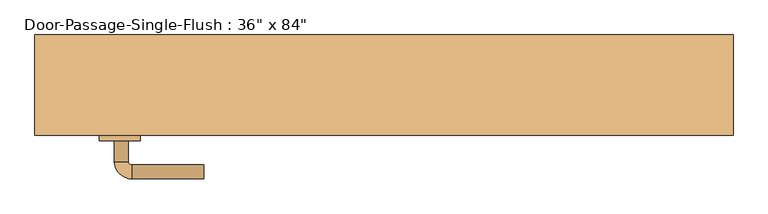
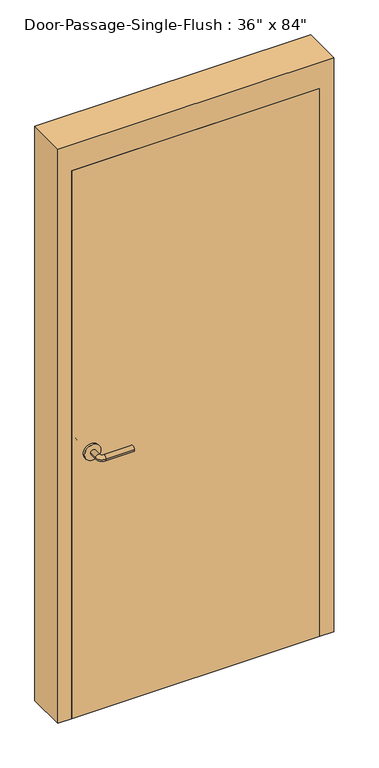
"""IFC4 building model written with IfcOpenShell, lengths in millimetres: door geometry."""

import ifcopenshell
import ifcopenshell.guid

model = None  # the IFC model being written
_history = None  # IfcOwnerHistory: only IFC2X3 demands one
_inside = {}  # id of a spatial element -> (the spatial element, [elements in it])
_under = {}  # id of a project, library or spatial element -> (it, [spatial elements below it])
_declared = {}  # id of a project -> (the project, [libraries it declares])
_typed = {}  # id of a type object -> (the type object, [elements of that type])
_made_of = {}  # id of a material, layer set ... -> (it, [elements and type objects made of it])


def new_model(schema):
    """Start an empty IFC model of exactly this schema.

    Asked for "IFC4X3", IfcOpenShell would pick the latest addendum, in which some entities
    have other attributes; the version numbers below select the first issue.
    IFC2X3 requires an IfcOwnerHistory on every rooted entity: one is made here for all.
    """
    global model, _history
    if schema == "IFC4X3":
        model = ifcopenshell.file(schema_version=(4, 3, 0, 0))
    else:
        model = ifcopenshell.file(schema=schema)
    _inside.clear()
    _under.clear()
    _declared.clear()
    _typed.clear()
    _made_of.clear()
    _history = None
    if model.schema == "IFC2X3":
        org = make("IfcOrganization", Name="unknown")
        user = make(
            "IfcPersonAndOrganization",
            ThePerson=make("IfcPerson", FamilyName="unknown"),
            TheOrganization=org,
        )
        app = make(
            "IfcApplication",
            ApplicationDeveloper=org,
            Version="unknown",
            ApplicationFullName="unknown",
            ApplicationIdentifier="unknown",
        )
        _history = make(
            "IfcOwnerHistory",
            OwningUser=user,
            OwningApplication=app,
            ChangeAction="ADDED",
            CreationDate=0,
        )
    return model


def make(cls, **values):
    """One entity of the class cls with the attributes given. An attribute that is None is left unset."""
    return model.create_entity(
        cls, **{name: value for name, value in values.items() if value is not None}
    )


def rooted(cls, **values):
    """An entity with a GlobalId (a new one), such as an element, a storey or a relation."""
    return make(cls, GlobalId=ifcopenshell.guid.new(), OwnerHistory=_history, **values)


def si_unit(unit_type, name, prefix=None):
    """IfcSIUnit, for example si_unit("LENGTHUNIT", "METRE", prefix="MILLI")."""
    return make("IfcSIUnit", UnitType=unit_type, Prefix=prefix, Name=name)


def assignment(units):
    """IfcUnitAssignment: the units of a project."""
    return None if units is None else make("IfcUnitAssignment", Units=units)


def point(xyz):
    """IfcCartesianPoint."""
    return None if xyz is None else make("IfcCartesianPoint", Coordinates=xyz)


def direction(xyz):
    """IfcDirection."""
    return None if xyz is None else make("IfcDirection", DirectionRatios=xyz)


def frame(location, z_axis=None, x_axis=None):
    """IfcAxis2Placement3D, a coordinate frame: its origin and axes. An axis left out is left unset."""
    return make(
        "IfcAxis2Placement3D",
        Location=point(location),
        Axis=direction(z_axis),
        RefDirection=direction(x_axis),
    )


def frame_2d(location, x_axis=None):
    """IfcAxis2Placement2D, a coordinate frame in the plane: its origin and x axis."""
    return make(
        "IfcAxis2Placement2D", Location=point(location), RefDirection=direction(x_axis)
    )


def origin():
    """The frame at (0, 0, 0) with its axes left unset."""
    return frame((0.0, 0.0, 0.0))


def origin_with_axes():
    """The frame at (0, 0, 0) with the z axis (0, 0, 1) and the x axis (1, 0, 0) written out."""
    return frame((0.0, 0.0, 0.0), z_axis=(0.0, 0.0, 1.0), x_axis=(1.0, 0.0, 0.0))


def place(relative_to, where):
    """IfcLocalPlacement: puts the frame where relative to a parent placement (None: the world)."""
    return make(
        "IfcLocalPlacement", PlacementRelTo=relative_to, RelativePlacement=where
    )


def context(
    kind, dimensions, precision=None, world=None, true_north=None, identifier=None
):
    """IfcGeometricRepresentationContext, for example the 3D "Model" context."""
    return make(
        "IfcGeometricRepresentationContext",
        ContextIdentifier=identifier,
        ContextType=kind,
        CoordinateSpaceDimension=dimensions,
        Precision=precision,
        WorldCoordinateSystem=world,
        TrueNorth=true_north,
    )


def project(units=None, contexts=None):
    """IfcProject with its units and contexts."""
    return rooted(
        "IfcProject",
        Name="project",
        RepresentationContexts=contexts,
        UnitsInContext=assignment(units),
    )


def spatial(cls, under=None, at=None, **own):
    """A site, building, storey or space (cls), placed at a placement, below another one or the project."""
    s = rooted(cls, ObjectPlacement=at, **own)
    if under is not None:
        _under.setdefault(under.id(), (under, []))[1].append(s)
    return s


def polyline(points):
    """IfcPolyline through the points."""
    return make("IfcPolyline", Points=[point(p) for p in points])


def circle_curve(where, radius):
    """IfcCircle in the frame where."""
    return make("IfcCircle", Position=where, Radius=radius)


def ellipse_curve(where, semi_axis1, semi_axis2):
    """IfcEllipse in the frame where."""
    return make(
        "IfcEllipse", Position=where, SemiAxis1=semi_axis1, SemiAxis2=semi_axis2
    )


def trimmed(basis, trim1, trim2, sense, master):
    """IfcTrimmedCurve: the piece of a basis curve between two trims."""
    return make(
        "IfcTrimmedCurve",
        BasisCurve=basis,
        Trim1=trim1,
        Trim2=trim2,
        SenseAgreement=sense,
        MasterRepresentation=master,
    )


def segment(curve, same_sense, transition):
    """IfcCompositeCurveSegment."""
    return make(
        "IfcCompositeCurveSegment",
        Transition=transition,
        SameSense=same_sense,
        ParentCurve=curve,
    )


def composite_curve(segments, self_intersect=None):
    """IfcCompositeCurve: segments joined end to end."""
    return make("IfcCompositeCurve", Segments=segments, SelfIntersect=self_intersect)


def outline(outer, holes=None, kind="AREA"):
    """IfcArbitraryClosedProfileDef: a profile drawn as a closed curve; with holes, ...WithVoids."""
    if holes is None:
        return make("IfcArbitraryClosedProfileDef", ProfileType=kind, OuterCurve=outer)
    return make(
        "IfcArbitraryProfileDefWithVoids",
        ProfileType=kind,
        OuterCurve=outer,
        InnerCurves=holes,
    )


def extrude(swept, where, along, depth):
    """IfcExtrudedAreaSolid: the profile swept, set in the frame where, extruded along a direction by depth."""
    return make(
        "IfcExtrudedAreaSolid",
        SweptArea=swept,
        Position=where,
        ExtrudedDirection=direction(along),
        Depth=depth,
    )


def faces_of(points, faces, orient=None, outer=None):
    """IfcFace entities. A face is a list of loops; a loop is a list of indices into points, from 0.

    orient and outer hold one flag for each loop. By default every Orientation is true, the
    first loop of a face is its IfcFaceOuterBound and the others are IfcFaceBound.
    """
    made = []
    for i, loops in enumerate(faces):
        bounds = []
        for j, loop in enumerate(loops):
            is_outer = j == 0 if outer is None else outer[i][j]
            bounds.append(
                make(
                    "IfcFaceOuterBound" if is_outer else "IfcFaceBound",
                    Bound=make("IfcPolyLoop", Polygon=[points[k] for k in loop]),
                    Orientation=True if orient is None else orient[i][j],
                )
            )
        made.append(make("IfcFace", Bounds=bounds))
    return made


def faceted_brep(points, faces, orient=None, outer=None, voids=None):
    """IfcFacetedBrep: a solid bounded by flat faces; with voids (closed shells), ...WithVoids."""
    shared = [point(p) for p in points]
    hull = make("IfcClosedShell", CfsFaces=faces_of(shared, faces, orient, outer))
    if voids is None:
        return make("IfcFacetedBrep", Outer=hull)
    return make(
        "IfcFacetedBrepWithVoids",
        Outer=hull,
        Voids=[
            make(cls, CfsFaces=faces_of(shared, fs, o, b)) for cls, fs, o, b in voids
        ],
    )


def shape(context_of_items, identifier, shape_type, items):
    """IfcShapeRepresentation: the items that make up one representation, for example the "Body"."""
    return make(
        "IfcShapeRepresentation",
        ContextOfItems=context_of_items,
        RepresentationIdentifier=identifier,
        RepresentationType=shape_type,
        Items=items,
    )


def source(mapping_origin, context_of_items, identifier, shape_type, items):
    """IfcRepresentationMap: a shape defined once, which mapped items show again and again."""
    return make(
        "IfcRepresentationMap",
        MappingOrigin=mapping_origin,
        MappedRepresentation=shape(context_of_items, identifier, shape_type, items),
    )


def transform(
    local_origin,
    x_axis=None,
    y_axis=None,
    z_axis=None,
    scale=None,
    scale2=None,
    scale3=None,
    uniform=True,
):
    """IfcCartesianTransformationOperator3D, or its non-uniform kind. x_axis, y_axis, z_axis: its Axis1, 2, 3."""
    if uniform:
        return make(
            "IfcCartesianTransformationOperator3D",
            Axis1=direction(x_axis),
            Axis2=direction(y_axis),
            LocalOrigin=point(local_origin),
            Scale=scale,
            Axis3=direction(z_axis),
        )
    return make(
        "IfcCartesianTransformationOperator3DnonUniform",
        Axis1=direction(x_axis),
        Axis2=direction(y_axis),
        LocalOrigin=point(local_origin),
        Scale=scale,
        Axis3=direction(z_axis),
        Scale2=scale2,
        Scale3=scale3,
    )


def mapped(mapping_source, mapping_target):
    """IfcMappedItem: shows the shape of a source again, moved by a transform."""
    return make(
        "IfcMappedItem", MappingSource=mapping_source, MappingTarget=mapping_target
    )


def made_of(thing, what):
    """Note that an element or type object is made of a material, layer set ...; save() writes the relation."""
    if what is not None:
        _made_of.setdefault(what.id(), (what, []))[1].append(thing)
    return thing


def element(
    cls,
    number,
    at=None,
    inside=None,
    cuts=None,
    type_object=None,
    material=None,
    context=None,
    identifier="Body",
    shape_type=None,
    held_by="IfcProductDefinitionShape",
    body=None,
    shapes=None,
    **own,
):
    """One element of the class cls, such as IfcWall. Its Tag is "e" and its number.

    at: its placement. inside: the storey or other place that contains it. cuts: it is an
    opening in that element (IfcRelVoidsElement). A single representation is given by context,
    identifier, shape_type and body (its items); several are given by shapes. held_by: the class
    of the entity that holds the representations. save() writes the other relations.
    """
    e = rooted(cls, Tag="e%d" % number, ObjectPlacement=at, **own)
    if body is not None:
        shapes = [shape(context, identifier, shape_type, body)]
    if shapes is not None:
        e.Representation = make(held_by, Representations=shapes)
    if inside is not None:
        _inside.setdefault(inside.id(), (inside, []))[1].append(e)
    if cuts is not None:
        rooted(
            "IfcRelVoidsElement", RelatingBuildingElement=cuts, RelatedOpeningElement=e
        )
    if type_object is not None:
        _typed.setdefault(type_object.id(), (type_object, []))[1].append(e)
    return made_of(e, material)


def aggregate(whole, parts):
    """IfcRelAggregates: a whole, such as a stair, and the parts it consists of."""
    return rooted("IfcRelAggregates", RelatingObject=whole, RelatedObjects=parts)


def save(model, path):
    """Write the relations noted so far, then the file.

    IfcRelAggregates (storeys below a building ...), IfcRelContainedInSpatialStructure (elements
    in a storey), IfcRelDefinesByType, IfcRelAssociatesMaterial and IfcRelDeclares: one each for
    every whole, place, type object, material and project.
    """
    for whole, parts in _under.values():
        aggregate(whole, parts)
    for where, things in _inside.values():
        rooted(
            "IfcRelContainedInSpatialStructure",
            RelatedElements=things,
            RelatingStructure=where,
        )
    for kind, things in _typed.values():
        rooted("IfcRelDefinesByType", RelatedObjects=things, RelatingType=kind)
    for what, things in _made_of.values():
        rooted("IfcRelAssociatesMaterial", RelatedObjects=things, RelatingMaterial=what)
    for by, libraries in _declared.values():
        rooted("IfcRelDeclares", RelatingContext=by, RelatedDefinitions=libraries)
    model.write(path)


def plane_surface(at):
    """IfcPlane: the flat surface through the origin of the frame at, square to its z axis."""
    return make("IfcPlane", Position=at)


def cylinder_surface(at, radius):
    """IfcCylindricalSurface: all points at the distance radius from the z axis of the frame at."""
    return make("IfcCylindricalSurface", Position=at, Radius=radius)


def revolved_surface(curve, axis_point, axis_direction):
    """IfcSurfaceOfRevolution: the curve turned about the line through axis_point along axis_direction."""
    return make(
        "IfcSurfaceOfRevolution",
        SweptCurve=make("IfcArbitraryOpenProfileDef", ProfileType="CURVE", Curve=curve),
        AxisPosition=make("IfcAxis1Placement", Location=point(axis_point), Axis=direction(axis_direction)),
    )


def advanced_brep(points, edges, surfaces, faces):
    """IfcAdvancedBrep: a solid bounded by faces that lie on surfaces and meet in shared edges.

    An edge is (start, end): straight between two places in points (the first is 0);
    or (start, end, curve); or (start, end, curve, False) where it runs against its curve.
    A face is (place in surfaces, loops), or (place, loops, False) where it looks against
    its surface's normal. A loop lists edges by number (the first is 1), with a minus sign
    where the edge is run from its end to its start. The first loop is the outer one.
    """
    corners = [point(p) for p in points]
    vertices = [make("IfcVertexPoint", VertexGeometry=c) for c in corners]
    made = []
    for start, end, *more in edges:
        made.append(
            make(
                "IfcEdgeCurve",
                EdgeStart=vertices[start],
                EdgeEnd=vertices[end],
                EdgeGeometry=more[0] if more else make("IfcPolyline", Points=[corners[start], corners[end]]),
                SameSense=more[1] if len(more) > 1 else True,
            )
        )
    hull = []
    for where, loops, *sense in faces:
        bounds = []
        for j, loop in enumerate(loops):
            ring = [make("IfcOrientedEdge", EdgeElement=made[abs(k) - 1], Orientation=k > 0) for k in loop]
            bounds.append(
                make(
                    "IfcFaceOuterBound" if j == 0 else "IfcFaceBound",
                    Bound=make("IfcEdgeLoop", EdgeList=ring),
                    Orientation=True,
                )
            )
        hull.append(make("IfcAdvancedFace", Bounds=bounds, FaceSurface=surfaces[where], SameSense=sense[0] if sense else True))
    return make("IfcAdvancedBrep", Outer=make("IfcClosedShell", CfsFaces=hull))


def door_fea31935(model_context):
    return source(origin(), model_context, "Body", "SolidModel", [
        advanced_brep(
        [(-392.190625, -180.9125, 1016.0), (-372.190625, -180.9125, 1016.0), (-392.190625, -150.9125, 1016.0), (-372.190625, -150.9125, 1016.0), (-367.190625, -145.9125, 1016.0), (-367.190625, -125.9125, 1016.0), (-262.190625, -125.9125, 1016.0), (-262.190625, -145.9125, 1016.0)],
        [
            (0, 1, circle_curve(frame((-382.190625, -180.9125, 1016.0), z_axis=(0.0, -1.0, 0.0), x_axis=(1.0, 0.0, 0.0)), 10.0)),
            (1, 0, circle_curve(frame((-382.190625, -180.9125, 1016.0), z_axis=(0.0, -1.0, 0.0), x_axis=(1.0, 0.0, 0.0)), 10.0)),
            (0, 2),
            (2, 3, circle_curve(frame((-382.190625, -150.9125, 1016.0), z_axis=(0.0, -1.0, 0.0), x_axis=(1.0, 0.0, 0.0)), 10.0)),
            (3, 1),
            (3, 2, circle_curve(frame((-382.190625, -150.9125, 1016.0), z_axis=(0.0, -1.0, 0.0), x_axis=(1.0, 0.0, 0.0)), 10.0)),
            (4, 3, circle_curve(frame((-367.190625, -150.9125, 1016.0), z_axis=(0.0, 0.0, 1.0), x_axis=(-1.0, 0.0, 0.0)), 5.0)),
            (2, 5, circle_curve(frame((-367.190625, -150.9125, 1016.0), z_axis=(0.0, 0.0, -1.0), x_axis=(-1.0, 0.0, 0.0)), 25.0)),
            (5, 4, circle_curve(frame((-367.190625, -135.9125, 1016.0), z_axis=(-1.0, 0.0, 0.0), x_axis=(0.0, -1.0, 0.0)), 10.0)),
            (4, 5, circle_curve(frame((-367.190625, -135.9125, 1016.0), z_axis=(-1.0, 0.0, 0.0), x_axis=(0.0, -1.0, 0.0)), 10.0)),
            (6, 7, circle_curve(frame((-262.190625, -135.9125, 1016.0), z_axis=(1.0, 0.0, 0.0), x_axis=(0.0, -1.0, 0.0)), 10.0)),
            (7, 6, circle_curve(frame((-262.190625, -135.9125, 1016.0), z_axis=(1.0, 0.0, 0.0), x_axis=(0.0, -1.0, 0.0)), 10.0)),
            (5, 6),
            (7, 4),
        ],
        [
            plane_surface(frame((-382.190625, -180.9125, 1016.0), z_axis=(0.0, -1.0, 0.0), x_axis=(0.0, 0.0, 1.0))),
            cylinder_surface(frame((-382.190625, -180.9125, 1016.0), z_axis=(0.0, -1.0, 0.0), x_axis=(1.0, 0.0, 0.0)), 10.0),
            revolved_surface(trimmed(ellipse_curve(frame((-382.190625, -150.9125, 1016.0), z_axis=(0.0, -1.0, 0.0), x_axis=(1.0, 0.0, 0.0)), 10.0, 10.0), [point((-392.190625, -150.9125, 1016.0))], [point((-372.190625, -150.9125, 1016.0))], True, "CARTESIAN"), (-367.190625, -150.9125, 1016.0), (0.0, 0.0, -1.0)),
            revolved_surface(trimmed(ellipse_curve(frame((-382.190625, -150.9125, 1016.0), z_axis=(0.0, -1.0, 0.0), x_axis=(1.0, 0.0, 0.0)), 10.0, 10.0), [point((-372.190625, -150.9125, 1016.0))], [point((-392.190625, -150.9125, 1016.0))], True, "CARTESIAN"), (-367.190625, -150.9125, 1016.0), (0.0, 0.0, -1.0)),
            plane_surface(frame((-262.190625, -135.9125, 1016.0), z_axis=(1.0, 0.0, 0.0), x_axis=(0.0, 0.0, 1.0))),
            cylinder_surface(frame((-367.190625, -135.9125, 1016.0), z_axis=(-1.0, 0.0, 0.0), x_axis=(0.0, -1.0, 0.0)), 10.0),
        ],
        [
            (0, [[1, 2]]),
            (1, [[-1, 3, 4, 5]]),
            (1, [[-2, -5, 6, -3]]),
            (2, [[7, -4, 8, 9]]),
            (3, [[-8, -6, -7, 10]]),
            (4, [[11, 12]]),
            (5, [[-9, 13, -12, 14]]),
            (5, [[-10, -14, -11, -13]]),
        ],
    ),
        extrude(outline(composite_curve([segment(trimmed(circle_curve(frame_2d((1016.0, -384.690625)), 30.0), [point((1016.0, -414.690625))], [point((1016.0, -354.690625))], False, "CARTESIAN"), True, "CONTINUOUS"), segment(trimmed(circle_curve(frame_2d((1016.0, -384.690625)), 30.0), [point((1016.0, -354.690625))], [point((1016.0, -414.690625))], False, "CARTESIAN"), True, "CONTINUOUS")], self_intersect=False)), frame((0.0, -188.9125, 0.0), z_axis=(0.0, 1.0, 0.0), x_axis=(0.0, 0.0, 1.0)), (0.0, 0.0, 1.0), 8.0),
        advanced_brep(
        [(-392.190625, -241.3625, 1016.0), (-372.190625, -241.3625, 1016.0), (-372.190625, -271.3625, 1016.0), (-392.190625, -271.3625, 1016.0), (-367.190625, -276.3625, 1016.0), (-367.190625, -296.3625, 1016.0), (-262.190625, -296.3625, 1016.0), (-262.190625, -276.3625, 1016.0)],
        [
            (0, 1, circle_curve(frame((-382.190625, -241.3625, 1016.0), z_axis=(0.0, 1.0, 0.0), x_axis=(1.0, 0.0, 0.0)), 10.0)),
            (1, 0, circle_curve(frame((-382.190625, -241.3625, 1016.0), z_axis=(0.0, 1.0, 0.0), x_axis=(1.0, 0.0, 0.0)), 10.0)),
            (1, 2),
            (2, 3, circle_curve(frame((-382.190625, -271.3625, 1016.0), z_axis=(0.0, 1.0, 0.0), x_axis=(1.0, 0.0, 0.0)), 10.0)),
            (3, 0),
            (3, 2, circle_curve(frame((-382.190625, -271.3625, 1016.0), z_axis=(0.0, 1.0, 0.0), x_axis=(1.0, 0.0, 0.0)), 10.0)),
            (4, 5, circle_curve(frame((-367.190625, -286.3625, 1016.0), z_axis=(-1.0, 0.0, 0.0), x_axis=(0.0, 1.0, 0.0)), 10.0)),
            (5, 3, circle_curve(frame((-367.190625, -271.3625, 1016.0), z_axis=(0.0, 0.0, -1.0), x_axis=(-1.0, 0.0, 0.0)), 25.0)),
            (2, 4, circle_curve(frame((-367.190625, -271.3625, 1016.0), z_axis=(0.0, 0.0, 1.0), x_axis=(-1.0, 0.0, 0.0)), 5.0)),
            (5, 4, circle_curve(frame((-367.190625, -286.3625, 1016.0), z_axis=(-1.0, 0.0, 0.0), x_axis=(0.0, 1.0, 0.0)), 10.0)),
            (6, 7, circle_curve(frame((-262.190625, -286.3625, 1016.0), z_axis=(1.0, 0.0, 0.0), x_axis=(0.0, 1.0, 0.0)), 10.0)),
            (7, 6, circle_curve(frame((-262.190625, -286.3625, 1016.0), z_axis=(1.0, 0.0, 0.0), x_axis=(0.0, 1.0, 0.0)), 10.0)),
            (4, 7),
            (6, 5),
        ],
        [
            plane_surface(frame((-382.190625, -241.3625, 1016.0), z_axis=(0.0, 1.0, 0.0), x_axis=(0.0, 0.0, 1.0))),
            cylinder_surface(frame((-382.190625, -241.3625, 1016.0), z_axis=(0.0, 1.0, 0.0), x_axis=(1.0, 0.0, 0.0)), 10.0),
            revolved_surface(trimmed(ellipse_curve(frame((-382.190625, -271.3625, 1016.0), z_axis=(0.0, -1.0, 0.0), x_axis=(1.0, 0.0, 0.0)), 10.0, 10.0), [point((-392.190625, -271.3625, 1016.0))], [point((-372.190625, -271.3625, 1016.0))], True, "CARTESIAN"), (-367.190625, -271.3625, 1016.0), (0.0, 0.0, -1.0)),
            revolved_surface(trimmed(ellipse_curve(frame((-382.190625, -271.3625, 1016.0), z_axis=(0.0, -1.0, 0.0), x_axis=(1.0, 0.0, 0.0)), 10.0, 10.0), [point((-372.190625, -271.3625, 1016.0))], [point((-392.190625, -271.3625, 1016.0))], True, "CARTESIAN"), (-367.190625, -271.3625, 1016.0), (0.0, 0.0, -1.0)),
            plane_surface(frame((-262.190625, -286.3625, 1016.0), z_axis=(1.0, 0.0, 0.0), x_axis=(0.0, 0.0, 1.0))),
            cylinder_surface(frame((-367.190625, -286.3625, 1016.0), z_axis=(-1.0, 0.0, 0.0), x_axis=(0.0, 1.0, 0.0)), 10.0),
        ],
        [
            (0, [[1, 2]]),
            (1, [[3, 4, 5, -2]]),
            (1, [[-5, 6, -3, -1]]),
            (2, [[7, 8, -4, 9]]),
            (3, [[10, -9, -6, -8]]),
            (4, [[11, 12]]),
            (5, [[13, -11, 14, -7]]),
            (5, [[-14, -12, -13, -10]]),
        ],
    ),
        extrude(outline(composite_curve([segment(trimmed(circle_curve(frame_2d((1016.0, -384.690625)), 30.0), [point((1016.0, -414.690625))], [point((1016.0, -354.690625))], False, "CARTESIAN"), True, "CONTINUOUS"), segment(trimmed(circle_curve(frame_2d((1016.0, -384.690625)), 30.0), [point((1016.0, -354.690625))], [point((1016.0, -414.690625))], False, "CARTESIAN"), True, "CONTINUOUS")], self_intersect=False)), frame((0.0, -241.3625, 0.0), z_axis=(0.0, 1.0, 0.0), x_axis=(0.0, 0.0, 1.0)), (0.0, 0.0, 1.0), 8.0),
        faceted_brep([(457.2, -184.15, 0.0), (441.325, -184.15, 0.0), (441.325, -136.525, 0.0), (457.2, -136.525, 0.0), (457.2, -87.3125, 0.0), (508.0, -87.3125, 0.0), (508.0, -233.3625, 0.0), (457.2, -233.3625, 0.0), (457.2, -233.3625, 2133.6), (457.2, -184.15, 2133.6), (508.0, -233.3625, 2235.2), (-508.0, -233.3625, 2235.2), (-508.0, -233.3625, 0.0), (-457.2, -233.3625, 0.0), (-457.2, -233.3625, 2133.6), (508.0, -87.3125, 2235.2), (457.2, -87.3125, 2133.6), (-457.2, -87.3125, 2133.6), (-457.2, -87.3125, 0.0), (-508.0, -87.3125, 0.0), (-508.0, -87.3125, 2235.2), (457.2, -136.525, 2133.6), (441.325, -136.525, 2117.725), (-441.325, -136.525, 2117.725), (-441.325, -136.525, 0.0), (-457.2, -136.525, 0.0), (-457.2, -136.525, 2133.6), (441.325, -184.15, 2117.725), (-457.2, -184.15, 2133.6), (-457.2, -184.15, 0.0), (-441.325, -184.15, 0.0), (-441.325, -184.15, 2117.725)], [[[0, 1, 2, 3, 4, 5, 6, 7]], [[7, 8, 9, 0]], [[6, 10, 11, 12, 13, 14, 8, 7]], [[5, 15, 10, 6]], [[4, 16, 17, 18, 19, 20, 15, 5]], [[3, 21, 16, 4]], [[2, 22, 23, 24, 25, 26, 21, 3]], [[1, 27, 22, 2]], [[0, 9, 28, 29, 30, 31, 27, 1]], [[8, 14, 28, 9]], [[16, 21, 26, 17]], [[22, 27, 31, 23]], [[12, 19, 18, 25, 24, 30, 29, 13]], [[13, 29, 28, 14]], [[11, 20, 19, 12]], [[17, 26, 25, 18]], [[23, 31, 30, 24]], [[15, 20, 11, 10]]]),
        extrude(outline(polyline([(457.2, -188.9125), (457.2, -233.3625), (-457.2, -233.3625), (-457.2, -188.9125), (457.2, -188.9125)])), origin_with_axes(), (0.0, 0.0, 1.0), 2133.6),
    ])


if __name__ == "__main__":
    model = new_model("IFC4")
    model_context = context("Model", 3, world=origin())
    ifc_project = project(units=[si_unit("LENGTHUNIT", "METRE", prefix="MILLI")], contexts=[model_context])
    site = spatial("IfcSite", under=ifc_project)
    building = spatial("IfcBuilding", under=site)
    placement = place(None, origin())
    door_shape = door_fea31935(model_context)
    element("IfcDoor", 1, ObjectType="Door-Passage-Single-Flush : 36\" x 84\"", at=placement, inside=building, context=model_context, shape_type="MappedRepresentation", body=[
        mapped(door_shape, transform((0.0, 0.0, 0.0), x_axis=(1.0, 0.0, 0.0), y_axis=(0.0, 1.0, 0.0), z_axis=(0.0, 0.0, 1.0))),
    ])
    save(model, "model.ifc")
